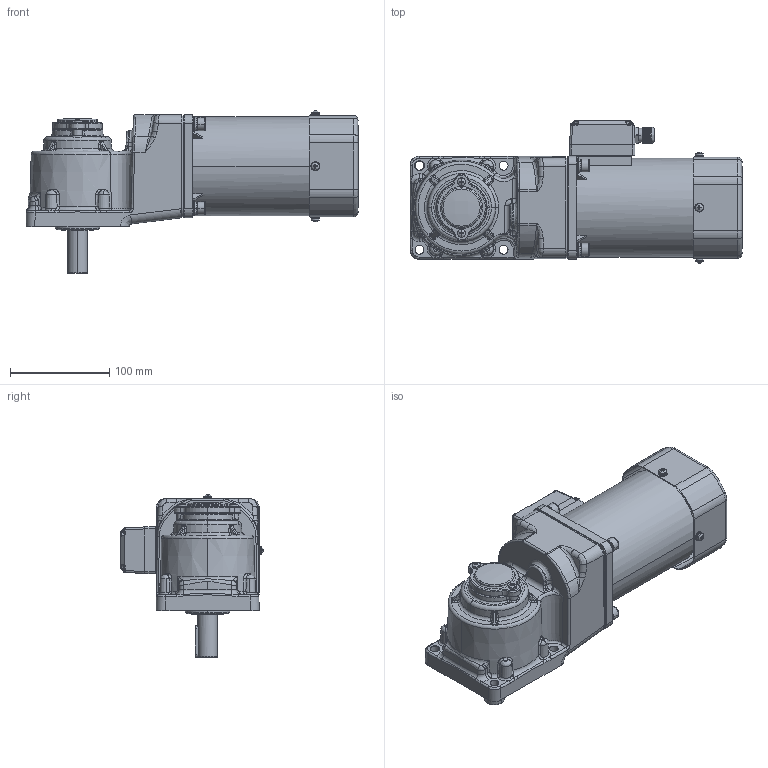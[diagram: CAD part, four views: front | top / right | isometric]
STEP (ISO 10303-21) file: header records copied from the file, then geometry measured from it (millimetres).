
FILE_DESCRIPTION (( 'STEP AP203' ), '1' );
FILE_NAME ('6IK120RGU-CFT(6GU3RT-180RT)ÐÂ.STEP', '2023-07-07T02:46:33', ( 'Windows User' ), ( 'P R C' ), 'SwSTEP 2.0', 'SolidWorks 2019', '' );
FILE_SCHEMA (( 'CONFIG_CONTROL_DESIGN' ));
Length unit declared in the file: millimetre
Products named in the file (5): 6IK120RGU-CFT(6GU3RT-180RT)陔(2)^6IK120RGU-CFT(6GU3RT-180RT)陔; 100RT____________________^6IK120RGU-CFT(6GU3RT-180RT)ÐÂ(2)_6IK120RGU-CFT(6GU3RT-180RT)ÐÂ; ^6IK120RGU-CFT(6GU3RT-180RT)陔(2)_6IK120RGU-CFT(6GU3RT-180RT)陔; 6IK120RGU-CFT(6GU3RT-180RT)陔; ^_6IK120RGU-CFT(6GU3RT-180RT)陔(2)_6IK120RGU-CFT(6GU3RT-180RT)陔
Assembly tree (4 placements, depth 4):
  6IK120RGU-CFT(6GU3RT-180RT)陔
    6IK120RGU-CFT(6GU3RT-180RT)陔(2)^6IK120RGU-CFT(6GU3RT-180RT)陔
      ^6IK120RGU-CFT(6GU3RT-180RT)陔(2)_6IK120RGU-CFT(6GU3RT-180RT)陔
        ^_6IK120RGU-CFT(6GU3RT-180RT)陔(2)_6IK120RGU-CFT(6GU3RT-180RT)陔
      100RT____________________^6IK120RGU-CFT(6GU3RT-180RT)ÐÂ(2)_6IK120RGU-CFT(6GU3RT-180RT)ÐÂ
Bounding box: 334.98 x 143.46 x 163.96 mm (x, y, z)
Volume: 2551462.1 mm3; surface area: 290417.9 mm2
Topology: 38 solids, 51 shells, 2744 faces, 6598 edges, 3977 vertices
Faces by surface type: cylinder 834, plane 790, cone 561, bspline 385, torus 118, sphere 56
Entity records: 104768 total; most frequent: CARTESIAN_POINT 44370, ORIENTED_EDGE 13070, DIRECTION 11877, EDGE_CURVE 6535, AXIS2_PLACEMENT_3D 4699, VERTEX_POINT 3975, EDGE_LOOP 2900, ADVANCED_FACE 2744
